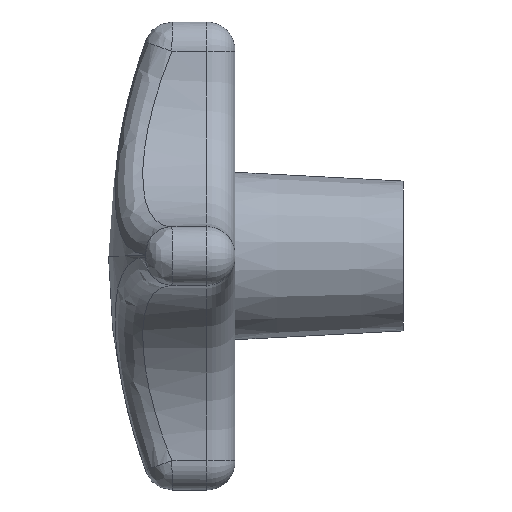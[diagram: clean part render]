
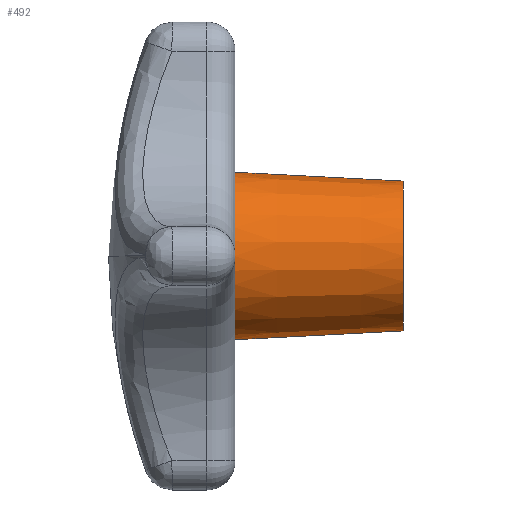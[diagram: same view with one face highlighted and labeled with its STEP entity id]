
A CAD part, left-side view. The second image highlights one B-rep face of the part: STEP entity #492.
In plain terms, the highlighted conical face has half-angle 3 degrees and reference radius 16 mm.
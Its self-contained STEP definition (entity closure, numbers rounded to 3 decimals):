
#360 = EDGE_LOOP ( 'NONE', ( #362, #489, #361, #445 ) ) ;
#361 = ORIENTED_EDGE ( 'NONE', *, *, #1113, .T. ) ;
#362 = ORIENTED_EDGE ( 'NONE', *, *, #1141, .F. ) ;
#445 = ORIENTED_EDGE ( 'NONE', *, *, #514, .F. ) ;
#489 = ORIENTED_EDGE ( 'NONE', *, *, #490, .T. ) ;
#490 = EDGE_CURVE ( 'NONE', #1042, #1040, #1293, .T. ) ;
#492 = ADVANCED_FACE ( 'NONE', ( #1289 ), #1288, .T. ) ;
#514 = EDGE_CURVE ( 'NONE', #1142, #1145, #1393, .T. ) ;
#1040 = VERTEX_POINT ( 'NONE', #6999 ) ;
#1042 = VERTEX_POINT ( 'NONE', #6990 ) ;
#1113 = EDGE_CURVE ( 'NONE', #1040, #1145, #7057, .T. ) ;
#1141 = EDGE_CURVE ( 'NONE', #1042, #1142, #6390, .T. ) ;
#1142 = VERTEX_POINT ( 'NONE', #6386 ) ;
#1145 = VERTEX_POINT ( 'NONE', #7104 ) ;
#1284 = DIRECTION ( 'NONE',  ( 0., 0., 1. ) ) ;
#1285 = DIRECTION ( 'NONE',  ( 0., 1., 0. ) ) ;
#1286 = AXIS2_PLACEMENT_3D ( 'NONE', #1287, #1285, #1284 ) ;
#1287 = CARTESIAN_POINT ( 'NONE',  ( 0., -36., 0. ) ) ;
#1288 = CONICAL_SURFACE ( 'NONE', #1286, 16., 0.052 ) ;
#1289 = FACE_OUTER_BOUND ( 'NONE', #360, .T. ) ;
#1290 = DIRECTION ( 'NONE',  ( 0., 0., 1. ) ) ;
#1291 = DIRECTION ( 'NONE',  ( 0., 1., 0. ) ) ;
#1292 = AXIS2_PLACEMENT_3D ( 'NONE', #1297, #1291, #1290 ) ;
#1293 = CIRCLE ( 'NONE', #1292, 16. ) ;
#1297 = CARTESIAN_POINT ( 'NONE',  ( 0., -36., 0. ) ) ;
#1390 = DIRECTION ( 'NONE',  ( 0., 0., 1. ) ) ;
#1391 = DIRECTION ( 'NONE',  ( 0., 1., 0. ) ) ;
#1392 = AXIS2_PLACEMENT_3D ( 'NONE', #1418, #1391, #1390 ) ;
#1393 = CIRCLE ( 'NONE', #1392, 17.887 ) ;
#1418 = CARTESIAN_POINT ( 'NONE',  ( 0., 0., 0. ) ) ;
#6386 = CARTESIAN_POINT ( 'NONE',  ( 0., 0., -17.887 ) ) ;
#6387 = DIRECTION ( 'NONE',  ( 0., 0.999, -0.052 ) ) ;
#6388 = VECTOR ( 'NONE', #6387, 1000. ) ;
#6389 = CARTESIAN_POINT ( 'NONE',  ( 0., -36., -16. ) ) ;
#6390 = LINE ( 'NONE', #6389, #6388 ) ;
#6990 = CARTESIAN_POINT ( 'NONE',  ( 0., -36., -16. ) ) ;
#6999 = CARTESIAN_POINT ( 'NONE',  ( 0., -36., 16. ) ) ;
#7054 = DIRECTION ( 'NONE',  ( 0., 0.999, 0.052 ) ) ;
#7055 = VECTOR ( 'NONE', #7054, 1000. ) ;
#7056 = CARTESIAN_POINT ( 'NONE',  ( 0., -36., 16. ) ) ;
#7057 = LINE ( 'NONE', #7056, #7055 ) ;
#7104 = CARTESIAN_POINT ( 'NONE',  ( 0., 0., 17.887 ) ) ;
